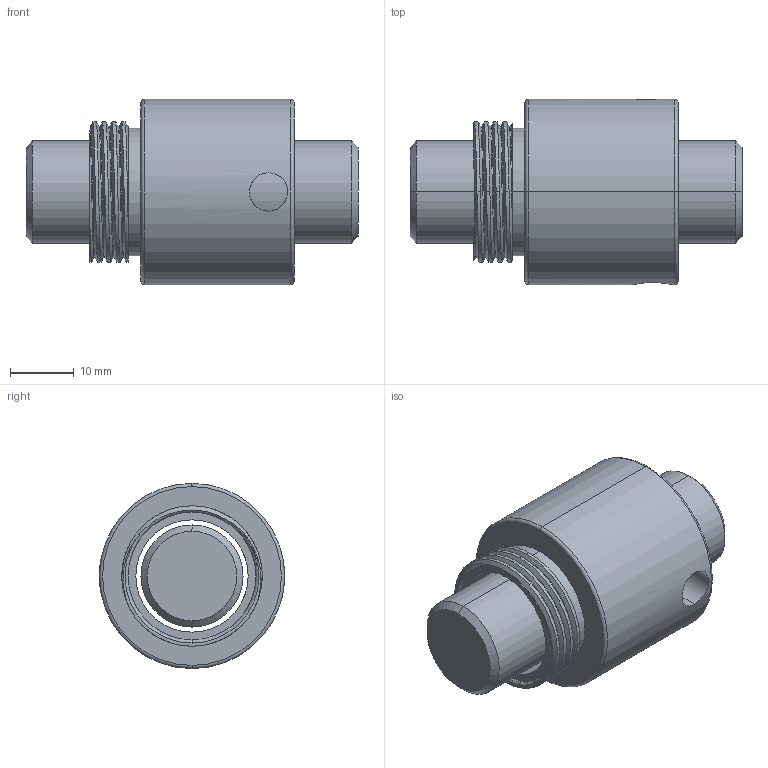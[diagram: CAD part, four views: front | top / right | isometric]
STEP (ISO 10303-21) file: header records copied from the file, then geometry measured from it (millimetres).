
FILE_DESCRIPTION (( 'STEP AP203' ), '1' );
FILE_NAME ('BSHR01604T3-C.STEP', '2020-06-17T07:00:34', ( '' ), ( '' ), 'SwSTEP 2.0', 'SolidWorks 2013', '' );
FILE_SCHEMA (( 'CONFIG_CONTROL_DESIGN' ));
Length unit declared in the file: millimetre
Products named in the file (1): BSHR01604T3-C
Bounding box: 52 x 29 x 29 mm (x, y, z)
Volume: 21000 mm3; surface area: 8607.1 mm2
Topology: 2 solids, 2 shells, 47 faces, 110 edges, 69 vertices
Faces by surface type: cylinder 22, torus 8, plane 8, cone 6, bspline 3
Entity records: 2464 total; most frequent: CARTESIAN_POINT 1366, ORIENTED_EDGE 216, DIRECTION 213, EDGE_CURVE 108, AXIS2_PLACEMENT_3D 93, VERTEX_POINT 69, EDGE_LOOP 55, CIRCLE 48
